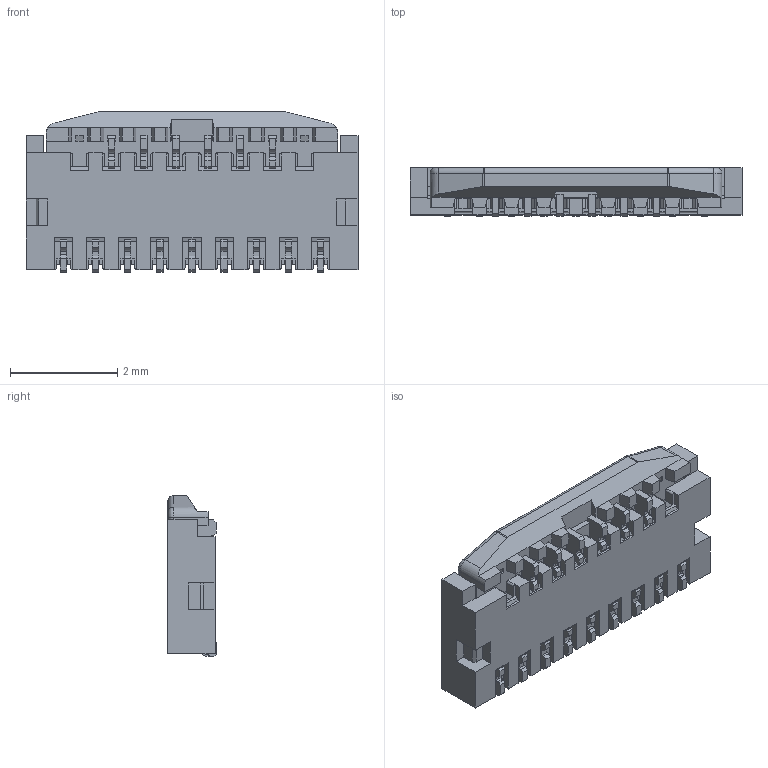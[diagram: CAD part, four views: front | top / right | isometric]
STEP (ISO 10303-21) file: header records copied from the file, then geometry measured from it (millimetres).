
FILE_DESCRIPTION (( 'STEP AP203' ), '1' );
FILE_NAME ('20599-013ExC ASS''Y ACT CLOSE STEP R0 Garmin.STEP', '2013-08-06T05:13:40', ( ' ' ), ( ' ' ), 'SwSTEP 2.0', 'SolidWorks 2011', '' );
FILE_SCHEMA (( 'CONFIG_CONTROL_DESIGN' ));
Length unit declared in the file: millimetre
Products named in the file (1): 20599-013ExC ASS''Y ACT CLOSE STEP R0 Garmin
Bounding box: 6.2 x 0.9 x 3 mm (x, y, z)
Volume: 12.1 mm3; surface area: 76.7 mm2
Topology: 1 solids, 1 shells, 1458 faces, 4336 edges, 2824 vertices
Faces by surface type: plane 1260, cylinder 193, sphere 2, torus 2, bspline 1
Entity records: 48255 total; most frequent: CARTESIAN_POINT 8873, ORIENTED_EDGE 8668, DIRECTION 7582, EDGE_CURVE 4334, VECTOR 3892, LINE 3892, VERTEX_POINT 2824, AXIS2_PLACEMENT_3D 1845
